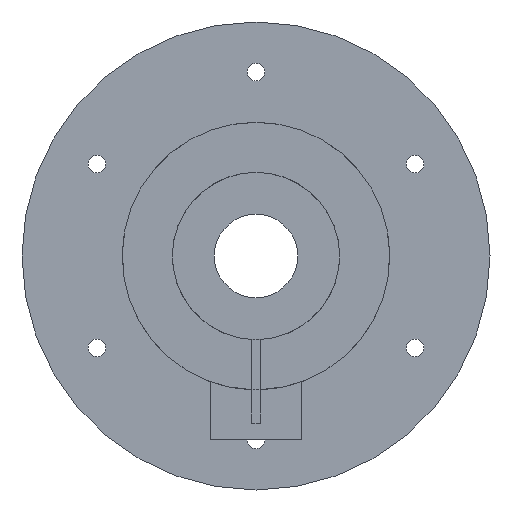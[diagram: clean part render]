
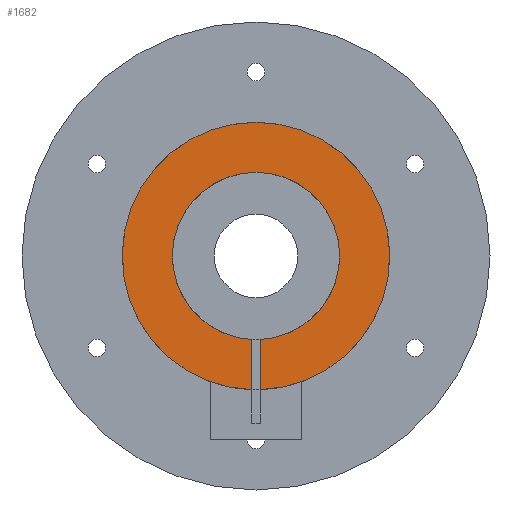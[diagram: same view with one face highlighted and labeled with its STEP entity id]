
A CAD part, front view. The second image highlights one B-rep face of the part: STEP entity #1682.
In plain terms, the highlighted planar face has unit normal (0, -1, 0).
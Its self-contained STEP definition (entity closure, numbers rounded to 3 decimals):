
#941 = CYLINDRICAL_SURFACE('',#942,32.);
#942 = AXIS2_PLACEMENT_3D('',#943,#944,#945);
#943 = CARTESIAN_POINT('',(0.,286.,0.));
#944 = DIRECTION('',(0.,1.,0.));
#945 = DIRECTION('',(0.,-0.,1.));
#1168 = CYLINDRICAL_SURFACE('',#1169,20.02);
#1169 = AXIS2_PLACEMENT_3D('',#1170,#1171,#1172);
#1170 = CARTESIAN_POINT('',(0.,285.,0.));
#1171 = DIRECTION('',(0.,1.,0.));
#1172 = DIRECTION('',(0.,-0.,1.));
#1186 = EDGE_CURVE('',#1187,#1189,#1191,.T.);
#1187 = VERTEX_POINT('',#1188);
#1188 = CARTESIAN_POINT('',(-1.,286.,-31.984));
#1189 = VERTEX_POINT('',#1190);
#1190 = CARTESIAN_POINT('',(0.,286.,32.));
#1191 = SURFACE_CURVE('',#1192,(#1197,#1204),.PCURVE_S1.);
#1192 = CIRCLE('',#1193,32.);
#1193 = AXIS2_PLACEMENT_3D('',#1194,#1195,#1196);
#1194 = CARTESIAN_POINT('',(0.,286.,0.));
#1195 = DIRECTION('',(0.,1.,0.));
#1196 = DIRECTION('',(0.,-0.,1.));
#1197 = PCURVE('',#941,#1198);
#1198 = DEFINITIONAL_REPRESENTATION('',(#1199),#1203);
#1199 = LINE('',#1200,#1201);
#1200 = CARTESIAN_POINT('',(0.,0.));
#1201 = VECTOR('',#1202,1.);
#1202 = DIRECTION('',(1.,0.));
#1203 = ( GEOMETRIC_REPRESENTATION_CONTEXT(2) 
PARAMETRIC_REPRESENTATION_CONTEXT() REPRESENTATION_CONTEXT('2D SPACE',''
  ) );
#1204 = PCURVE('',#1205,#1210);
#1205 = PLANE('',#1206);
#1206 = AXIS2_PLACEMENT_3D('',#1207,#1208,#1209);
#1207 = CARTESIAN_POINT('',(0.,286.,0.));
#1208 = DIRECTION('',(0.,1.,0.));
#1209 = DIRECTION('',(0.,-0.,1.));
#1210 = DEFINITIONAL_REPRESENTATION('',(#1211),#1215);
#1211 = CIRCLE('',#1212,32.);
#1212 = AXIS2_PLACEMENT_2D('',#1213,#1214);
#1213 = CARTESIAN_POINT('',(0.,0.));
#1214 = DIRECTION('',(1.,0.));
#1215 = ( GEOMETRIC_REPRESENTATION_CONTEXT(2) 
PARAMETRIC_REPRESENTATION_CONTEXT() REPRESENTATION_CONTEXT('2D SPACE',''
  ) );
#1240 = EDGE_CURVE('',#1189,#1241,#1243,.T.);
#1241 = VERTEX_POINT('',#1242);
#1242 = CARTESIAN_POINT('',(1.,286.,-31.984));
#1243 = SURFACE_CURVE('',#1244,(#1249,#1256),.PCURVE_S1.);
#1244 = CIRCLE('',#1245,32.);
#1245 = AXIS2_PLACEMENT_3D('',#1246,#1247,#1248);
#1246 = CARTESIAN_POINT('',(0.,286.,0.));
#1247 = DIRECTION('',(0.,1.,0.));
#1248 = DIRECTION('',(0.,-0.,1.));
#1249 = PCURVE('',#941,#1250);
#1250 = DEFINITIONAL_REPRESENTATION('',(#1251),#1255);
#1251 = LINE('',#1252,#1253);
#1252 = CARTESIAN_POINT('',(0.,0.));
#1253 = VECTOR('',#1254,1.);
#1254 = DIRECTION('',(1.,0.));
#1255 = ( GEOMETRIC_REPRESENTATION_CONTEXT(2) 
PARAMETRIC_REPRESENTATION_CONTEXT() REPRESENTATION_CONTEXT('2D SPACE',''
  ) );
#1256 = PCURVE('',#1205,#1257);
#1257 = DEFINITIONAL_REPRESENTATION('',(#1258),#1262);
#1258 = CIRCLE('',#1259,32.);
#1259 = AXIS2_PLACEMENT_2D('',#1260,#1261);
#1260 = CARTESIAN_POINT('',(0.,0.));
#1261 = DIRECTION('',(1.,0.));
#1262 = ( GEOMETRIC_REPRESENTATION_CONTEXT(2) 
PARAMETRIC_REPRESENTATION_CONTEXT() REPRESENTATION_CONTEXT('2D SPACE',''
  ) );
#1279 = PLANE('',#1280);
#1280 = AXIS2_PLACEMENT_3D('',#1281,#1282,#1283);
#1281 = CARTESIAN_POINT('',(1.,285.,-40.));
#1282 = DIRECTION('',(1.,0.,-0.));
#1283 = DIRECTION('',(0.,0.,1.));
#1439 = PLANE('',#1440);
#1440 = AXIS2_PLACEMENT_3D('',#1441,#1442,#1443);
#1441 = CARTESIAN_POINT('',(-1.,285.,-40.));
#1442 = DIRECTION('',(1.,0.,-0.));
#1443 = DIRECTION('',(0.,0.,1.));
#1546 = EDGE_CURVE('',#1547,#1549,#1551,.T.);
#1547 = VERTEX_POINT('',#1548);
#1548 = CARTESIAN_POINT('',(-1.,286.,-19.995));
#1549 = VERTEX_POINT('',#1550);
#1550 = CARTESIAN_POINT('',(0.,286.,20.02));
#1551 = SURFACE_CURVE('',#1552,(#1557,#1564),.PCURVE_S1.);
#1552 = CIRCLE('',#1553,20.02);
#1553 = AXIS2_PLACEMENT_3D('',#1554,#1555,#1556);
#1554 = CARTESIAN_POINT('',(0.,286.,0.));
#1555 = DIRECTION('',(0.,1.,0.));
#1556 = DIRECTION('',(0.,-0.,1.));
#1557 = PCURVE('',#1168,#1558);
#1558 = DEFINITIONAL_REPRESENTATION('',(#1559),#1563);
#1559 = LINE('',#1560,#1561);
#1560 = CARTESIAN_POINT('',(0.,1.));
#1561 = VECTOR('',#1562,1.);
#1562 = DIRECTION('',(1.,0.));
#1563 = ( GEOMETRIC_REPRESENTATION_CONTEXT(2) 
PARAMETRIC_REPRESENTATION_CONTEXT() REPRESENTATION_CONTEXT('2D SPACE',''
  ) );
#1564 = PCURVE('',#1205,#1565);
#1565 = DEFINITIONAL_REPRESENTATION('',(#1566),#1570);
#1566 = CIRCLE('',#1567,20.02);
#1567 = AXIS2_PLACEMENT_2D('',#1568,#1569);
#1568 = CARTESIAN_POINT('',(0.,0.));
#1569 = DIRECTION('',(1.,0.));
#1570 = ( GEOMETRIC_REPRESENTATION_CONTEXT(2) 
PARAMETRIC_REPRESENTATION_CONTEXT() REPRESENTATION_CONTEXT('2D SPACE',''
  ) );
#1595 = EDGE_CURVE('',#1549,#1596,#1598,.T.);
#1596 = VERTEX_POINT('',#1597);
#1597 = CARTESIAN_POINT('',(1.,286.,-19.995));
#1598 = SURFACE_CURVE('',#1599,(#1604,#1611),.PCURVE_S1.);
#1599 = CIRCLE('',#1600,20.02);
#1600 = AXIS2_PLACEMENT_3D('',#1601,#1602,#1603);
#1601 = CARTESIAN_POINT('',(0.,286.,0.));
#1602 = DIRECTION('',(0.,1.,0.));
#1603 = DIRECTION('',(0.,-0.,1.));
#1604 = PCURVE('',#1168,#1605);
#1605 = DEFINITIONAL_REPRESENTATION('',(#1606),#1610);
#1606 = LINE('',#1607,#1608);
#1607 = CARTESIAN_POINT('',(0.,1.));
#1608 = VECTOR('',#1609,1.);
#1609 = DIRECTION('',(1.,0.));
#1610 = ( GEOMETRIC_REPRESENTATION_CONTEXT(2) 
PARAMETRIC_REPRESENTATION_CONTEXT() REPRESENTATION_CONTEXT('2D SPACE',''
  ) );
#1611 = PCURVE('',#1205,#1612);
#1612 = DEFINITIONAL_REPRESENTATION('',(#1613),#1617);
#1613 = CIRCLE('',#1614,20.02);
#1614 = AXIS2_PLACEMENT_2D('',#1615,#1616);
#1615 = CARTESIAN_POINT('',(0.,0.));
#1616 = DIRECTION('',(1.,0.));
#1617 = ( GEOMETRIC_REPRESENTATION_CONTEXT(2) 
PARAMETRIC_REPRESENTATION_CONTEXT() REPRESENTATION_CONTEXT('2D SPACE',''
  ) );
#1682 = ADVANCED_FACE('',(#1683),#1205,.F.);
#1683 = FACE_BOUND('',#1684,.F.);
#1684 = EDGE_LOOP('',(#1685,#1686,#1687,#1706,#1707,#1708));
#1685 = ORIENTED_EDGE('',*,*,#1186,.T.);
#1686 = ORIENTED_EDGE('',*,*,#1240,.T.);
#1687 = ORIENTED_EDGE('',*,*,#1688,.F.);
#1688 = EDGE_CURVE('',#1596,#1241,#1689,.T.);
#1689 = SURFACE_CURVE('',#1690,(#1694,#1700),.PCURVE_S1.);
#1690 = LINE('',#1691,#1692);
#1691 = CARTESIAN_POINT('',(1.,286.,-20.));
#1692 = VECTOR('',#1693,1.);
#1693 = DIRECTION('',(-0.,0.,-1.));
#1694 = PCURVE('',#1205,#1695);
#1695 = DEFINITIONAL_REPRESENTATION('',(#1696),#1699);
#1696 = B_SPLINE_CURVE_WITH_KNOTS('',1,(#1697,#1698),.UNSPECIFIED.,.F.,
  .F.,(2,2),(-8.,12.),.PIECEWISE_BEZIER_KNOTS.);
#1697 = CARTESIAN_POINT('',(-12.,1.));
#1698 = CARTESIAN_POINT('',(-32.,1.));
#1699 = ( GEOMETRIC_REPRESENTATION_CONTEXT(2) 
PARAMETRIC_REPRESENTATION_CONTEXT() REPRESENTATION_CONTEXT('2D SPACE',''
  ) );
#1700 = PCURVE('',#1279,#1701);
#1701 = DEFINITIONAL_REPRESENTATION('',(#1702),#1705);
#1702 = B_SPLINE_CURVE_WITH_KNOTS('',1,(#1703,#1704),.UNSPECIFIED.,.F.,
  .F.,(2,2),(-8.,12.),.PIECEWISE_BEZIER_KNOTS.);
#1703 = CARTESIAN_POINT('',(28.,-1.));
#1704 = CARTESIAN_POINT('',(8.,-1.));
#1705 = ( GEOMETRIC_REPRESENTATION_CONTEXT(2) 
PARAMETRIC_REPRESENTATION_CONTEXT() REPRESENTATION_CONTEXT('2D SPACE',''
  ) );
#1706 = ORIENTED_EDGE('',*,*,#1595,.F.);
#1707 = ORIENTED_EDGE('',*,*,#1546,.F.);
#1708 = ORIENTED_EDGE('',*,*,#1709,.T.);
#1709 = EDGE_CURVE('',#1547,#1187,#1710,.T.);
#1710 = SURFACE_CURVE('',#1711,(#1715,#1721),.PCURVE_S1.);
#1711 = LINE('',#1712,#1713);
#1712 = CARTESIAN_POINT('',(-1.,286.,-20.));
#1713 = VECTOR('',#1714,1.);
#1714 = DIRECTION('',(-0.,0.,-1.));
#1715 = PCURVE('',#1205,#1716);
#1716 = DEFINITIONAL_REPRESENTATION('',(#1717),#1720);
#1717 = B_SPLINE_CURVE_WITH_KNOTS('',1,(#1718,#1719),.UNSPECIFIED.,.F.,
  .F.,(2,2),(-8.,12.),.PIECEWISE_BEZIER_KNOTS.);
#1718 = CARTESIAN_POINT('',(-12.,-1.));
#1719 = CARTESIAN_POINT('',(-32.,-1.));
#1720 = ( GEOMETRIC_REPRESENTATION_CONTEXT(2) 
PARAMETRIC_REPRESENTATION_CONTEXT() REPRESENTATION_CONTEXT('2D SPACE',''
  ) );
#1721 = PCURVE('',#1439,#1722);
#1722 = DEFINITIONAL_REPRESENTATION('',(#1723),#1726);
#1723 = B_SPLINE_CURVE_WITH_KNOTS('',1,(#1724,#1725),.UNSPECIFIED.,.F.,
  .F.,(2,2),(-8.,12.),.PIECEWISE_BEZIER_KNOTS.);
#1724 = CARTESIAN_POINT('',(28.,-1.));
#1725 = CARTESIAN_POINT('',(8.,-1.));
#1726 = ( GEOMETRIC_REPRESENTATION_CONTEXT(2) 
PARAMETRIC_REPRESENTATION_CONTEXT() REPRESENTATION_CONTEXT('2D SPACE',''
  ) );
